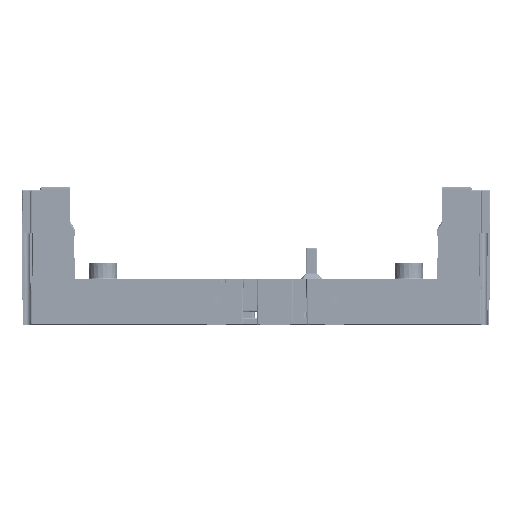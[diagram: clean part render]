
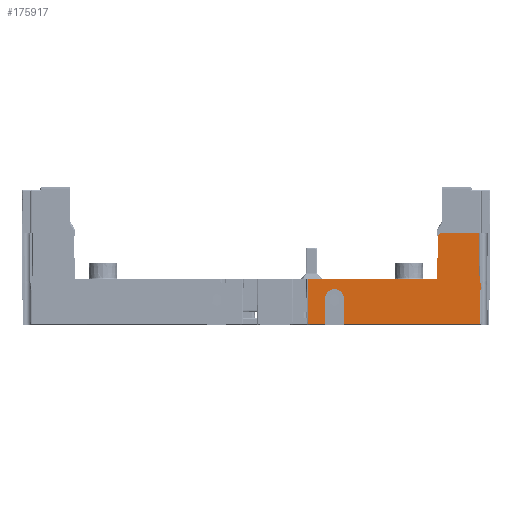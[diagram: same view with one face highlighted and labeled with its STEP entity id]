
A CAD part, left-side view. The second image highlights one B-rep face of the part: STEP entity #175917.
In plain terms, the highlighted planar face has unit normal (-1, 0, -0.009).
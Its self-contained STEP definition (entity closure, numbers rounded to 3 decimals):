
#175722 = ORIENTED_EDGE ( 'NONE', *, *, #175728, .T. ) ;
#175728 = EDGE_CURVE ( 'NONE', #175960, #175731, #197583, .T. ) ;
#175731 = VERTEX_POINT ( 'NONE', #197572 ) ;
#175736 = ORIENTED_EDGE ( 'NONE', *, *, #175741, .T. ) ;
#175741 = EDGE_CURVE ( 'NONE', #175731, #175743, #197534, .T. ) ;
#175743 = VERTEX_POINT ( 'NONE', #197546 ) ;
#175842 = ORIENTED_EDGE ( 'NONE', *, *, #175848, .T. ) ;
#175848 = EDGE_CURVE ( 'NONE', #175743, #175851, #197899, .T. ) ;
#175851 = VERTEX_POINT ( 'NONE', #197874 ) ;
#175854 = ORIENTED_EDGE ( 'NONE', *, *, #175856, .T. ) ;
#175856 = EDGE_CURVE ( 'NONE', #175851, #175859, #198110, .T. ) ;
#175859 = VERTEX_POINT ( 'NONE', #198097 ) ;
#175867 = ORIENTED_EDGE ( 'NONE', *, *, #175871, .T. ) ;
#175871 = EDGE_CURVE ( 'NONE', #175859, #175875, #198061, .T. ) ;
#175875 = VERTEX_POINT ( 'NONE', #198049 ) ;
#175881 = ORIENTED_EDGE ( 'NONE', *, *, #175886, .F. ) ;
#175886 = EDGE_CURVE ( 'NONE', #175888, #175875, #197994, .T. ) ;
#175888 = VERTEX_POINT ( 'NONE', #198248 ) ;
#175900 = ORIENTED_EDGE ( 'NONE', *, *, #175906, .T. ) ;
#175906 = EDGE_CURVE ( 'NONE', #175888, #175910, #198194, .T. ) ;
#175910 = VERTEX_POINT ( 'NONE', #198215 ) ;
#175917 = ADVANCED_FACE ( 'NONE', ( #198187 ), #198370, .T. ) ;
#175929 = EDGE_LOOP ( 'NONE', ( #175935, #175947, #175957, #175722, #175736, #175842, #175854, #175867, #175881, #175900, #176006, #176028, #176052 ) ) ;
#175935 = ORIENTED_EDGE ( 'NONE', *, *, #383218, .F. ) ;
#175947 = ORIENTED_EDGE ( 'NONE', *, *, #175951, .T. ) ;
#175951 = EDGE_CURVE ( 'NONE', #383119, #231644, #198314, .T. ) ;
#175957 = ORIENTED_EDGE ( 'NONE', *, *, #175959, .T. ) ;
#175959 = EDGE_CURVE ( 'NONE', #231644, #175960, #198560, .T. ) ;
#175960 = VERTEX_POINT ( 'NONE', #198547 ) ;
#176006 = ORIENTED_EDGE ( 'NONE', *, *, #176014, .T. ) ;
#176014 = EDGE_CURVE ( 'NONE', #175910, #176021, #198981, .T. ) ;
#176021 = VERTEX_POINT ( 'NONE', #198961 ) ;
#176028 = ORIENTED_EDGE ( 'NONE', *, *, #176038, .T. ) ;
#176038 = EDGE_CURVE ( 'NONE', #176021, #176044, #198942, .T. ) ;
#176044 = VERTEX_POINT ( 'NONE', #198932 ) ;
#176052 = ORIENTED_EDGE ( 'NONE', *, *, #176059, .F. ) ;
#176059 = EDGE_CURVE ( 'NONE', #383219, #176044, #198901, .T. ) ;
#197505 = CARTESIAN_POINT ( 'NONE',  ( -114.564, -67.15, 20. ) ) ;
#197509 = CARTESIAN_POINT ( 'NONE',  ( -114.688, -67.15, 34.3 ) ) ;
#197512 = CARTESIAN_POINT ( 'NONE',  ( -114.688, -52.85, 34.3 ) ) ;
#197514 = CARTESIAN_POINT ( 'NONE',  ( -114.564, -52.85, 20. ) ) ;
#197534 =( BOUNDED_CURVE ( )  B_SPLINE_CURVE ( 3, ( #197514, #197512, #197509, #197505 ),
 .UNSPECIFIED., .F., .T. ) 
 B_SPLINE_CURVE_WITH_KNOTS ( ( 4, 4 ),
 ( 4.712, 7.854 ),
 .UNSPECIFIED. ) 
 CURVE ( )  GEOMETRIC_REPRESENTATION_ITEM ( )  RATIONAL_B_SPLINE_CURVE ( ( 1., 0.333, 0.333, 1. ) ) 
 REPRESENTATION_ITEM ( '' )  );
#197546 = CARTESIAN_POINT ( 'NONE',  ( -114.564, -67.15, 20. ) ) ;
#197572 = CARTESIAN_POINT ( 'NONE',  ( -114.564, -52.85, 20. ) ) ;
#197576 = DIRECTION ( 'NONE',  ( -0.009, -0.009, 1. ) ) ;
#197578 = VECTOR ( 'NONE', #197576, 1000. ) ;
#197581 = CARTESIAN_POINT ( 'NONE',  ( -115.009, -53.296, 71.062 ) ) ;
#197583 = LINE ( 'NONE', #197581, #197578 ) ;
#197874 = CARTESIAN_POINT ( 'NONE',  ( -114.393, -67.32, 0.496 ) ) ;
#197892 = DIRECTION ( 'NONE',  ( 0.009, -0.009, -1. ) ) ;
#197893 = VECTOR ( 'NONE', #197892, 1000. ) ;
#197896 = CARTESIAN_POINT ( 'NONE',  ( -114.992, -66.722, 69.055 ) ) ;
#197899 = LINE ( 'NONE', #197896, #197893 ) ;
#197990 = DIRECTION ( 'NONE',  ( 0., -1., 0. ) ) ;
#197991 = CARTESIAN_POINT ( 'NONE',  ( -114.668, -175., 32. ) ) ;
#197994 = LINE ( 'NONE', #197991, #198250 ) ;
#198024 = CARTESIAN_POINT ( 'NONE',  ( -114.668, -171.763, 32. ) ) ;
#198025 = CARTESIAN_POINT ( 'NONE',  ( -114.599, -171.717, 24.015 ) ) ;
#198027 = CARTESIAN_POINT ( 'NONE',  ( -114.529, -171.671, 16.03 ) ) ;
#198028 = CARTESIAN_POINT ( 'NONE',  ( -114.459, -171.626, 8.045 ) ) ;
#198031 = CARTESIAN_POINT ( 'NONE',  ( -114.437, -171.612, 5.529 ) ) ;
#198034 = CARTESIAN_POINT ( 'NONE',  ( -114.415, -171.598, 3.012 ) ) ;
#198037 = CARTESIAN_POINT ( 'NONE',  ( -114.393, -171.584, 0.496 ) ) ;
#198049 = CARTESIAN_POINT ( 'NONE',  ( -114.668, -171.763, 32. ) ) ;
#198061 = B_SPLINE_CURVE_WITH_KNOTS ( 'NONE', 3,
 ( #198037, #198034, #198031, #198028, #198027, #198025, #198024 ),
 .UNSPECIFIED., .F., .F.,
 ( 4, 3, 4 ),
 ( 0., 0.008, 0.032 ),
 .UNSPECIFIED. ) ;
#198097 = CARTESIAN_POINT ( 'NONE',  ( -114.393, -171.584, 0.496 ) ) ;
#198101 = DIRECTION ( 'NONE',  ( 0., -1., 0. ) ) ;
#198104 = VECTOR ( 'NONE', #198101, 1000. ) ;
#198108 = CARTESIAN_POINT ( 'NONE',  ( -114.393, -175., 0.496 ) ) ;
#198110 = LINE ( 'NONE', #198108, #198104 ) ;
#198170 = CARTESIAN_POINT ( 'NONE',  ( -115., -170.668, 70. ) ) ;
#198172 = CARTESIAN_POINT ( 'NONE',  ( -114.889, -170.779, 57.333 ) ) ;
#198175 = CARTESIAN_POINT ( 'NONE',  ( -114.779, -170.894, 44.667 ) ) ;
#198178 = CARTESIAN_POINT ( 'NONE',  ( -114.668, -171.014, 32. ) ) ;
#198187 = FACE_OUTER_BOUND ( 'NONE', #175929, .T. ) ;
#198194 = B_SPLINE_CURVE_WITH_KNOTS ( 'NONE', 3,
 ( #198178, #198175, #198172, #198170 ),
 .UNSPECIFIED., .F., .F.,
 ( 4, 4 ),
 ( 0.142, 0.18 ),
 .UNSPECIFIED. ) ;
#198215 = CARTESIAN_POINT ( 'NONE',  ( -115., -170.668, 70. ) ) ;
#198248 = CARTESIAN_POINT ( 'NONE',  ( -114.668, -171.014, 32. ) ) ;
#198250 = VECTOR ( 'NONE', #197990, 1000. ) ;
#198305 = DIRECTION ( 'NONE',  ( 0.009, -0.009, -1. ) ) ;
#198308 = VECTOR ( 'NONE', #198305, 1000. ) ;
#198310 = CARTESIAN_POINT ( 'NONE',  ( -114.99, -39.205, 68.815 ) ) ;
#198314 = LINE ( 'NONE', #198310, #198308 ) ;
#198353 = DIRECTION ( 'NONE',  ( -0.009, 0., 1. ) ) ;
#198356 = DIRECTION ( 'NONE',  ( -1., 0., -0.009 ) ) ;
#198359 = CARTESIAN_POINT ( 'NONE',  ( -115., -175., 70. ) ) ;
#198362 = AXIS2_PLACEMENT_3D ( 'NONE', #198359, #198356, #198353 ) ;
#198370 = PLANE ( 'NONE',  #198362 ) ;
#198547 = CARTESIAN_POINT ( 'NONE',  ( -114.393, -52.68, 0.496 ) ) ;
#198553 = DIRECTION ( 'NONE',  ( 0., -1., 0. ) ) ;
#198556 = VECTOR ( 'NONE', #198553, 1000. ) ;
#198558 = CARTESIAN_POINT ( 'NONE',  ( -114.393, -175., 0.496 ) ) ;
#198560 = LINE ( 'NONE', #198558, #198556 ) ;
#198894 = DIRECTION ( 'NONE',  ( -0.009, -0.017, 1. ) ) ;
#198895 = VECTOR ( 'NONE', #198894, 1000. ) ;
#198898 = CARTESIAN_POINT ( 'NONE',  ( -115.005, -139.18, 70.625 ) ) ;
#198901 = LINE ( 'NONE', #198898, #198895 ) ;
#198932 = CARTESIAN_POINT ( 'NONE',  ( -114.982, -139.134, 67.964 ) ) ;
#198935 = DIRECTION ( 'NONE',  ( 0.006, 0.707, -0.707 ) ) ;
#198937 = VECTOR ( 'NONE', #198935, 1000. ) ;
#198939 = CARTESIAN_POINT ( 'NONE',  ( -115.148, -158.084, 86.915 ) ) ;
#198942 = LINE ( 'NONE', #198939, #198937 ) ;
#198961 = CARTESIAN_POINT ( 'NONE',  ( -115., -141.169, 70. ) ) ;
#198976 = DIRECTION ( 'NONE',  ( 0., 1., 0. ) ) ;
#198978 = VECTOR ( 'NONE', #198976, 1000. ) ;
#198980 = CARTESIAN_POINT ( 'NONE',  ( -115., -175., 70. ) ) ;
#198981 = LINE ( 'NONE', #198980, #198978 ) ;
#231644 = VERTEX_POINT ( 'NONE', #453717 ) ;
#342083 = CARTESIAN_POINT ( 'NONE',  ( -114.695, -39.5, 35. ) ) ;
#342495 = LINE ( 'NONE', #342737, #342733 ) ;
#342726 = CARTESIAN_POINT ( 'NONE',  ( -114.695, -138.559, 35. ) ) ;
#342730 = DIRECTION ( 'NONE',  ( 0., -1., 0. ) ) ;
#342733 = VECTOR ( 'NONE', #342730, 1000. ) ;
#342737 = CARTESIAN_POINT ( 'NONE',  ( -114.695, -175., 35. ) ) ;
#383119 = VERTEX_POINT ( 'NONE', #342083 ) ;
#383218 = EDGE_CURVE ( 'NONE', #383119, #383219, #342495, .T. ) ;
#383219 = VERTEX_POINT ( 'NONE', #342726 ) ;
#453717 = CARTESIAN_POINT ( 'NONE',  ( -114.393, -39.801, 0.496 ) ) ;
